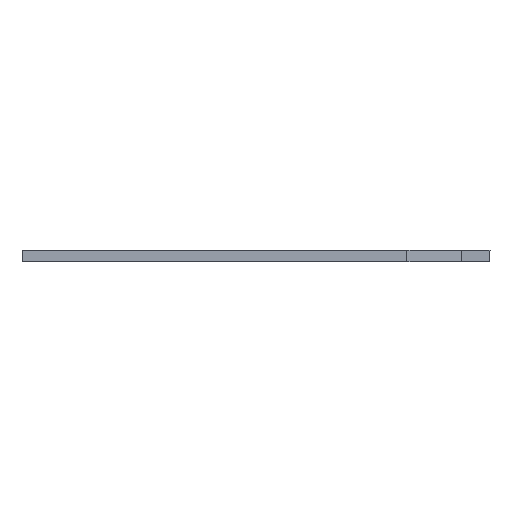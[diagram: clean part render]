
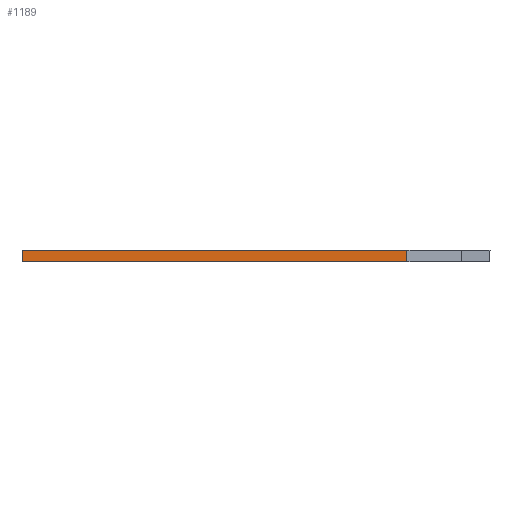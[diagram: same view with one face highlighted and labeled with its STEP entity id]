
A CAD part, left-side view. The second image highlights one B-rep face of the part: STEP entity #1189.
In plain terms, the highlighted planar face has unit normal (-1, 0, 0).
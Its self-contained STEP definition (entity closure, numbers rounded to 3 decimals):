
#6 = EDGE_CURVE ( 'NONE', #893, #381, #368, .T. ) ;
#13 = CARTESIAN_POINT ( 'NONE',  ( -142.5, -62., 1.5 ) ) ;
#24 = DIRECTION ( 'NONE',  ( 0., -1., 0. ) ) ;
#43 = CARTESIAN_POINT ( 'NONE',  ( -142.5, 62., 1.5 ) ) ;
#116 = PLANE ( 'NONE',  #1452 ) ;
#300 = VECTOR ( 'NONE', #342, 1000. ) ;
#342 = DIRECTION ( 'NONE',  ( 0., 0., -1. ) ) ;
#354 = CARTESIAN_POINT ( 'NONE',  ( -142.5, -62., 1.5 ) ) ;
#368 = LINE ( 'NONE', #1306, #886 ) ;
#369 = FACE_OUTER_BOUND ( 'NONE', #990, .T. ) ;
#381 = VERTEX_POINT ( 'NONE', #494 ) ;
#391 = EDGE_CURVE ( 'NONE', #441, #569, #717, .T. ) ;
#393 = CARTESIAN_POINT ( 'NONE',  ( -142.5, 62., -1.5 ) ) ;
#405 = ORIENTED_EDGE ( 'NONE', *, *, #1500, .T. ) ;
#441 = VERTEX_POINT ( 'NONE', #43 ) ;
#481 = ORIENTED_EDGE ( 'NONE', *, *, #6, .T. ) ;
#494 = CARTESIAN_POINT ( 'NONE',  ( -142.5, -40., -1.5 ) ) ;
#555 = CARTESIAN_POINT ( 'NONE',  ( -142.5, -40., 1.5 ) ) ;
#569 = VERTEX_POINT ( 'NONE', #669 ) ;
#660 = ORIENTED_EDGE ( 'NONE', *, *, #1117, .T. ) ;
#669 = CARTESIAN_POINT ( 'NONE',  ( -142.5, -40., 1.5 ) ) ;
#717 = LINE ( 'NONE', #354, #915 ) ;
#722 = DIRECTION ( 'NONE',  ( 1., 0., 0. ) ) ;
#783 = CARTESIAN_POINT ( 'NONE',  ( -142.5, 62., 1.5 ) ) ;
#886 = VECTOR ( 'NONE', #24, 1000. ) ;
#893 = VERTEX_POINT ( 'NONE', #393 ) ;
#894 = LINE ( 'NONE', #783, #300 ) ;
#915 = VECTOR ( 'NONE', #1182, 1000. ) ;
#977 = ORIENTED_EDGE ( 'NONE', *, *, #391, .F. ) ;
#990 = EDGE_LOOP ( 'NONE', ( #481, #405, #977, #660 ) ) ;
#1079 = VECTOR ( 'NONE', #1287, 1000. ) ;
#1117 = EDGE_CURVE ( 'NONE', #441, #893, #894, .T. ) ;
#1129 = LINE ( 'NONE', #555, #1079 ) ;
#1182 = DIRECTION ( 'NONE',  ( 0., -1., 0. ) ) ;
#1189 = ADVANCED_FACE ( 'NONE', ( #369 ), #116, .F. ) ;
#1190 = DIRECTION ( 'NONE',  ( 0., 0., -1. ) ) ;
#1287 = DIRECTION ( 'NONE',  ( 0., 0., 1. ) ) ;
#1306 = CARTESIAN_POINT ( 'NONE',  ( -142.5, -62., -1.5 ) ) ;
#1452 = AXIS2_PLACEMENT_3D ( 'NONE', #13, #722, #1190 ) ;
#1500 = EDGE_CURVE ( 'NONE', #381, #569, #1129, .T. ) ;
